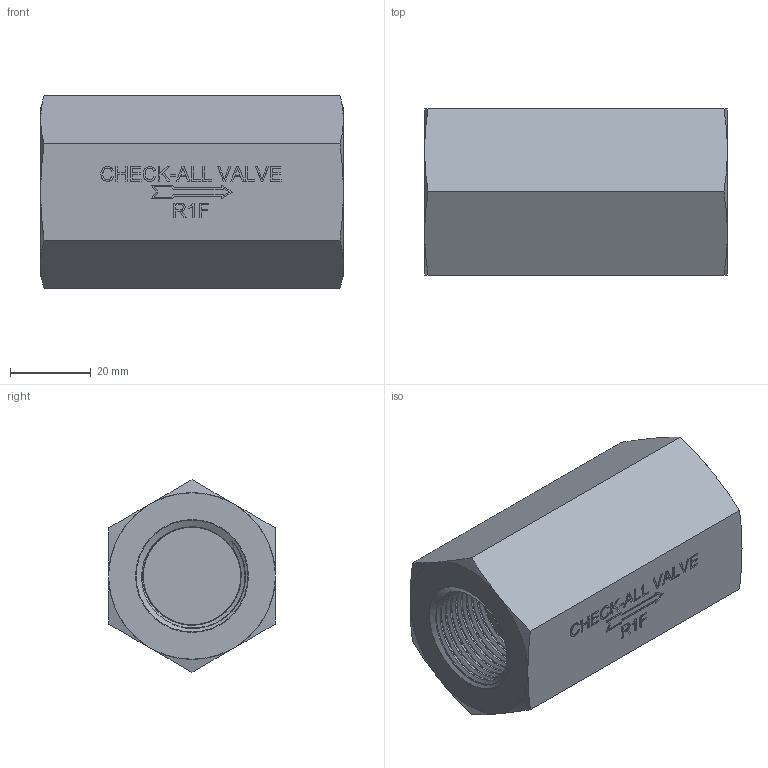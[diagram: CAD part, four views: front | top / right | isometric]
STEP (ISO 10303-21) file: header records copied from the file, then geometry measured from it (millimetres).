
FILE_DESCRIPTION( ( 'Unknown' ), '1' );
FILE_NAME( 'Y:/ENGR/3D Solid Edge Models/R1/stp/R1F.stp', 'Unknown', ( 'Unknown' ), ( 'Unknown' ), 'PSStep 16.0.42', 'Unknown', ' ' );
FILE_SCHEMA( ( 'AUTOMOTIVE_DESIGN { 1 0 10303 214 1 1 1 1 }' ) );
Length unit declared in the file: millimetre
Products named in the file (1): 1
Bounding box: 74.96 x 41.27 x 47.66 mm (x, y, z)
Volume: 93662.9 mm3; surface area: 17989.6 mm2
Topology: 1 solids, 1 shells, 260 faces, 690 edges, 432 vertices
Faces by surface type: extrusion 140, plane 56, bspline 34, cone 14, torus 14, cylinder 2
Entity records: 44722 total; most frequent: CARTESIAN_POINT 36975, ORIENTED_EDGE 1316, DIRECTION 766, EDGE_CURVE 658, VECTOR 480, VERTEX_POINT 428, B_SPLINE_CURVE_WITH_KNOTS 398, LINE 340
